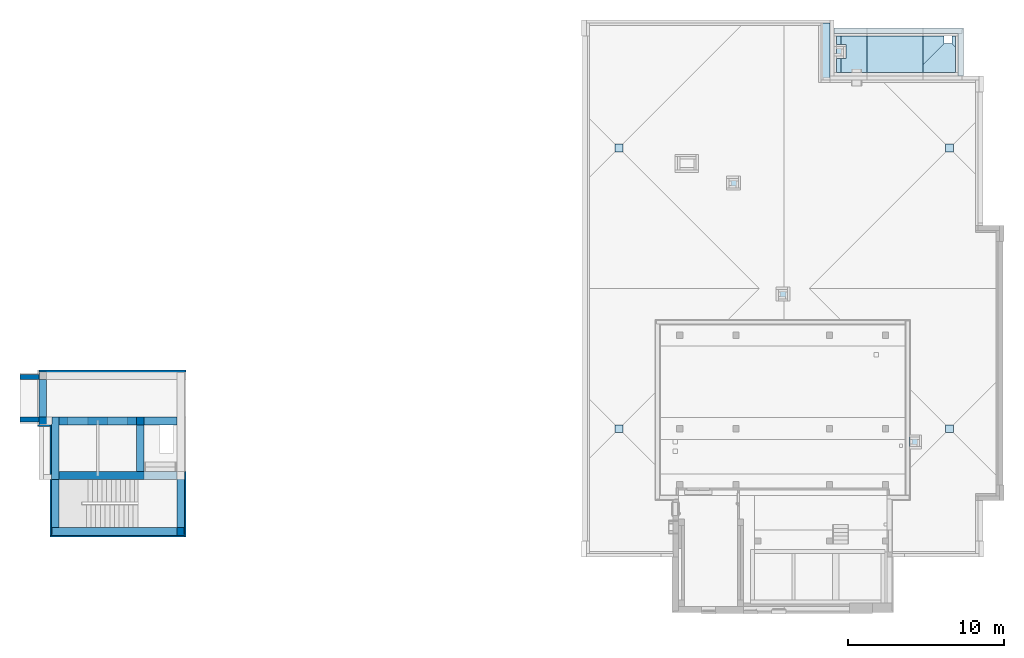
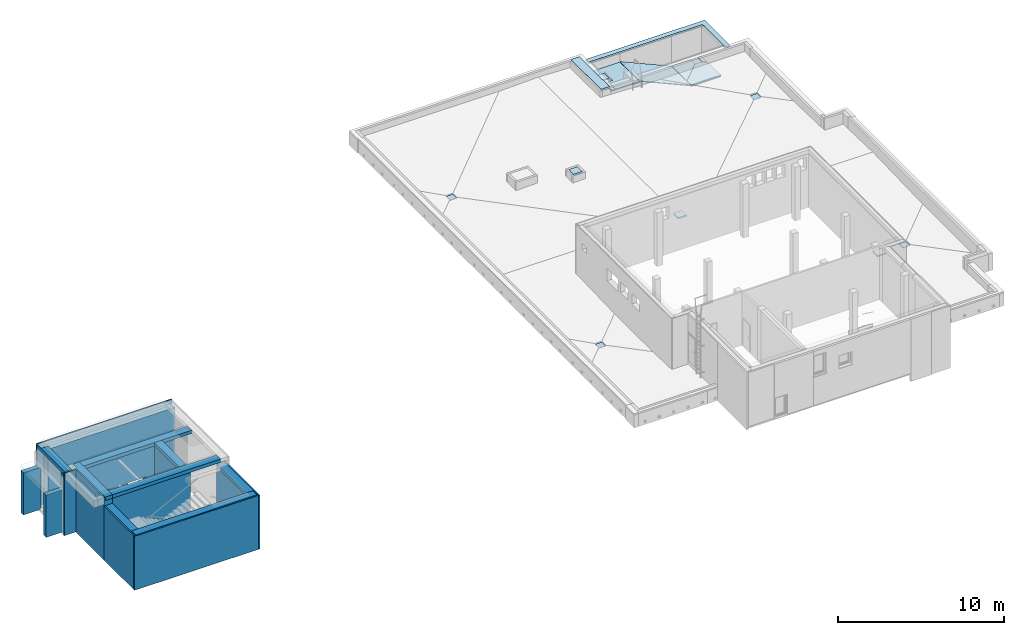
# One storey, part 3 of 17: 19 walls, 17 slabs, 2 openings, 3 elements without a shape of their own.
"""IFC4 building model written with IfcOpenShell, lengths in metres."""

from ifc_helpers import new_model, entity, si_unit, converted_unit, derived_unit, frame, frame_2d, origin, origin_with_axes, place, context, subcontext, project, spatial, polyline, rectangle, outline, extrude, clip, bounded_halfspace, material, layer, layer_set, layer_usage, element, aggregate, save


model = new_model("IFC4")

# Units and contexts
model_context = context("Model", 3, precision=1e-05, world=origin())
body_context = subcontext(model_context, "Body", "Model", "MODEL_VIEW")
ifc_project = project(units=[si_unit("LENGTHUNIT", "METRE"), si_unit("AREAUNIT", "SQUARE_METRE"), si_unit("VOLUMEUNIT", "CUBIC_METRE"), si_unit("MASSUNIT", "GRAM", prefix="KILO"), converted_unit("PLANEANGLEUNIT", "DEGREE", entity("IfcPlaneAngleMeasure", 0.0174532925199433), si_unit("PLANEANGLEUNIT", "RADIAN"), dimensions=[0, 0, 0, 0, 0, 0, 0]), derived_unit("THERMALTRANSMITTANCEUNIT", [(si_unit("POWERUNIT", "WATT"), 1), (si_unit("THERMODYNAMICTEMPERATUREUNIT", "KELVIN"), -1), (si_unit("LENGTHUNIT", "METRE"), -2)]), derived_unit("VOLUMETRICFLOWRATEUNIT", [(si_unit("LENGTHUNIT", "METRE"), 3), (converted_unit("TIMEUNIT", "hour", entity("IfcTimeMeasure", 3600.0), si_unit("TIMEUNIT", "SECOND"), dimensions=[0, 0, 1, 0, 0, 0, 0]), -1), (si_unit("LENGTHUNIT", "METRE"), -1)])], contexts=[model_context])

# Site, building, storey
site_placement = place(None, origin())
site = spatial("IfcSite", under=ifc_project, at=site_placement, Name="3. ASŘ", CompositionType="ELEMENT")
building_placement = place(site_placement, origin())
building = spatial("IfcBuilding", under=site, at=building_placement, Name="Pavilon C", CompositionType="ELEMENT")
storey_placement = place(building_placement, frame((0.0, 0.0, 13.8)))
storey = spatial("IfcBuildingStorey", under=building, at=storey_placement, Name="Půdorys 5.NP", CompositionType="ELEMENT", Elevation=13.8)

# Roof, slabs
roof_1_placement = place(storey_placement, frame((0.0, 0.0, -13.8)))
roof_1 = element("IfcRoof", 1, at=roof_1_placement, inside=storey, PredefinedType="NOTDEFINED")
ifc_material_1 = material(Name="ASFALTOVÁ HYDROIZOLACE")
ifc_layer_1 = layer(ifc_material_1, 0.01)
ifc_material_2 = material(Name="KAČÍREK")
ifc_layer_2 = layer(ifc_material_2, 0.06)
ifc_layer_set_1 = layer_set([ifc_layer_1, ifc_layer_2])
ifc_layer_usage_1 = layer_usage(ifc_layer_set_1, "AXIS3", "POSITIVE", 0.0)
slab_1_placement = place(roof_1_placement, frame((46.35, 30.55, 12.38)))
slab_1 = element("IfcSlab", 2, at=slab_1_placement, material=ifc_layer_usage_1, PredefinedType="ROOF", context=body_context, shape_type="SweptSolid", body=[
    extrude(outline(polyline([(-0.587499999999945, 0.67530368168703), (-0.587500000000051, -0.675303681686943), (1.26249999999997, -0.675303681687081), (-0.0874999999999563, 0.675303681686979), (-0.587499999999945, 0.67530368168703)])), frame((0.674999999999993, 1.26250000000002, 0.0202499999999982), z_axis=(0.0299865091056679, 2.22708088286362e-15, 0.999550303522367), x_axis=(7.42694281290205e-14, -1.0, 0.0)), (0.0, -0.029986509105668, 0.999550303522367), 0.0700314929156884),
])
ifc_material_3 = material(Name="ASFALTOVÁ HYDROIZOLACE")
ifc_layer_3 = layer(ifc_material_3, 0.01)
ifc_material_4 = material(Name="KAČÍREK")
ifc_layer_4 = layer(ifc_material_4, 0.06)
ifc_layer_set_2 = layer_set([ifc_layer_3, ifc_layer_4])
ifc_layer_usage_2 = layer_usage(ifc_layer_set_2, "AXIS3", "POSITIVE", 0.0)
slab_2_placement = place(roof_1_placement, frame((46.35, 30.04, 12.38)))
slab_2 = element("IfcSlab", 3, at=slab_2_placement, material=ifc_layer_usage_2, PredefinedType="ROOF", context=body_context, shape_type="SweptSolid", body=[
    extrude(outline(polyline([(0.116666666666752, 0.887065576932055), (-1.23333333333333, -0.463541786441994), (-1.23333333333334, -0.973771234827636), (0.866666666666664, -0.973771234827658), (0.866666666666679, 0.636953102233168), (0.616666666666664, 0.887065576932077), (0.116666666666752, 0.887065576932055)])), frame((1.23333333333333, 0.973333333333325, 0.0265999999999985), z_axis=(-3.33213833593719e-16, 0.0299865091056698, 0.999550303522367), x_axis=(1.0, 1.11121248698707e-14, 0.0)), (0.0, -0.0299865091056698, 0.999550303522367), 0.0700314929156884),
])
ifc_material_5 = material(Name="ASFALTOVÁ HYDROIZOLACE")
ifc_layer_5 = layer(ifc_material_5, 0.01)
ifc_material_6 = material(Name="KAČÍREK")
ifc_layer_6 = layer(ifc_material_6, 0.06)
ifc_layer_set_3 = layer_set([ifc_layer_5, ifc_layer_6])
ifc_layer_usage_3 = layer_usage(ifc_layer_set_3, "AXIS3", "POSITIVE", 0.0)
slab_3_placement = place(roof_1_placement, frame((48.2, 31.65, 12.38)))
slab_3 = element("IfcSlab", 4, at=slab_3_placement, material=ifc_layer_usage_3, PredefinedType="ROOF", context=body_context, shape_type="SweptSolid", body=[
    extrude(outline(polyline([(-0.187499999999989, 0.125056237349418), (-0.437499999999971, -0.125056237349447), (0.312499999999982, -0.125056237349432), (0.312499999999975, 0.125056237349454), (-0.187499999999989, 0.125056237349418)])), frame((0.125, 0.437499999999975, 0.00375000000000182), z_axis=(-0.0299865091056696, 7.56359306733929e-16, 0.999550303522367), x_axis=(2.52233197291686e-14, 1.0, 0.0)), (0.0, -0.0299865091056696, 0.999550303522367), 0.0700314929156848),
])
aggregate(roof_1, [slab_1, slab_2, slab_3])

# Roof, slab
roof_2_placement = place(storey_placement, frame((0.0, 0.0, -13.8)))
roof_2 = element("IfcRoof", 5, at=roof_2_placement, inside=storey, PredefinedType="NOTDEFINED")
ifc_material_7 = material(Name="ASFALTOVÁ HYDROIZOLACE")
ifc_layer_7 = layer(ifc_material_7, 0.01)
ifc_material_8 = material(Name="KAČÍREK")
ifc_layer_8 = layer(ifc_material_8, 0.06)
ifc_layer_set_4 = layer_set([ifc_layer_7, ifc_layer_8])
ifc_layer_usage_4 = layer_usage(ifc_layer_set_4, "AXIS3", "POSITIVE", 0.0)
slab_4_placement = place(roof_2_placement, frame((40.8, 30.04, 13.959865)))
slab_4 = element("IfcSlab", 6, at=slab_4_placement, material=ifc_layer_usage_4, PredefinedType="ROOF", context=body_context, shape_type="SweptSolid", body=[
    extrude(outline(polyline([(1.31250000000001, 1.08726824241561), (-0.637499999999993, 1.08726824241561), (-0.6375, 0.542731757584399), (-0.0375, 0.542731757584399), (-0.0375, -0.357268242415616), (-0.637499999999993, -0.357268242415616), (-0.637499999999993, -1.27273175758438), (1.31250000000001, -1.27273175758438), (1.31250000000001, 1.08726824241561)])), frame((0.6375, 1.27273175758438, 0.0), z_axis=(0.0, 0.0, 1.0), x_axis=(1.0, 0.0, 0.0)), (0.0, 0.0, 1.0), 0.0700000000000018),
])
aggregate(roof_2, [slab_4])

roof_3_placement = place(storey_placement, frame((0.0, 0.0, -13.8)))
roof_3 = element("IfcRoof", 7, at=roof_3_placement, inside=storey, PredefinedType="NOTDEFINED")
ifc_material_9 = material(Name="ASFALTOVÁ HYDROIZOLACE")
ifc_layer_9 = layer(ifc_material_9, 0.01)
ifc_material_10 = material(Name="KAČÍREK")
ifc_layer_10 = layer(ifc_material_10, 0.04)
ifc_layer_set_5 = layer_set([ifc_layer_9, ifc_layer_10])
ifc_layer_usage_5 = layer_usage(ifc_layer_set_5, "AXIS3", "POSITIVE", 0.0)
slab_5_placement = place(roof_3_placement, frame((42.75, 30.04, 12.4081019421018)))
slab_5 = element("IfcSlab", 8, at=slab_5_placement, material=ifc_layer_usage_5, PredefinedType="ROOF", context=body_context, shape_type="SweptSolid", body=[
    extrude(rectangle(XDim=2.36, YDim=3.93954312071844, at=frame_2d((5.45696821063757e-15, 7.27595761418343e-15), x_axis=(1.0, 6.16606577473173e-15))), frame((1.79999999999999, 1.18, 0.800000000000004), z_axis=(0.406138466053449, -1.7569064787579e-15, 0.913811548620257), x_axis=(-4.32588052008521e-15, -1.0, 0.0)), (0.0, -0.406138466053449, 0.913811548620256), 0.0547158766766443),
])
aggregate(roof_3, [slab_5])

# Slabs
ifc_material_11 = material(Name="SPÁDOVÉ KLÍNY PIR 3%")
slab_6_placement = place(storey_placement, frame((26.59, 24.95, 0.16)))
element("IfcSlab", 9, at=slab_6_placement, inside=storey, material=ifc_material_11, PredefinedType="FLOOR", context=body_context, shape_type="SweptSolid", body=[
    extrude(rectangle(XDim=0.5, YDim=0.499999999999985, at=frame_2d((0.249999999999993, -0.25), x_axis=(0.0, -1.0))), frame((0.0, 0.5, 0.0), z_axis=(0.0, 0.0, 1.0), x_axis=(1.0, 0.0, 0.0)), (0.0, 0.0, 1.0), 0.02),
])
ifc_material_12 = material(Name="SPÁDOVÉ KLÍNY PIR 3%")
slab_7_placement = place(storey_placement, frame((47.81, 24.95, 0.16)))
element("IfcSlab", 10, at=slab_7_placement, inside=storey, material=ifc_material_12, PredefinedType="FLOOR", context=body_context, shape_type="SweptSolid", body=[
    extrude(rectangle(XDim=0.5, YDim=0.499999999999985, at=frame_2d((0.249999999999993, -0.25), x_axis=(0.0, -1.0))), frame((0.0, 0.5, 0.0), z_axis=(0.0, 0.0, 1.0), x_axis=(1.0, 0.0, 0.0)), (0.0, 0.0, 1.0), 0.02),
])
ifc_material_13 = material(Name="SPÁDOVÉ KLÍNY PIR 3%")
slab_8_placement = place(storey_placement, frame((47.81, 6.95000000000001, 0.16)))
element("IfcSlab", 11, at=slab_8_placement, inside=storey, material=ifc_material_13, PredefinedType="FLOOR", context=body_context, shape_type="SweptSolid", body=[
    extrude(rectangle(XDim=0.5, YDim=0.499999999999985, at=frame_2d((0.249999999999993, -0.25), x_axis=(0.0, -1.0))), frame((0.0, 0.5, 0.0), z_axis=(0.0, 0.0, 1.0), x_axis=(1.0, 0.0, 0.0)), (0.0, 0.0, 1.0), 0.02),
])
ifc_material_14 = material(Name="SPÁDOVÉ KLÍNY PIR 3%")
slab_9_placement = place(storey_placement, frame((26.59, 6.95000000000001, 0.16)))
element("IfcSlab", 12, at=slab_9_placement, inside=storey, material=ifc_material_14, PredefinedType="FLOOR", context=body_context, shape_type="SweptSolid", body=[
    extrude(rectangle(XDim=0.5, YDim=0.499999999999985, at=frame_2d((0.249999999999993, -0.25), x_axis=(0.0, -1.0))), frame((0.0, 0.5, 0.0), z_axis=(0.0, 0.0, 1.0), x_axis=(1.0, 0.0, 0.0)), (0.0, 0.0, 1.0), 0.02),
])
ifc_material_15 = material(Name="SPÁDOVÉ KLÍNY PIR 3%")
slab_10_placement = place(storey_placement, frame((40.8, 30.04, 0.160000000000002)))
element("IfcSlab", 13, at=slab_10_placement, inside=storey, material=ifc_material_15, PredefinedType="FLOOR", context=body_context, shape_type="Clipping", body=[
    clip(clip(extrude(outline(polyline([(0.599999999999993, 0.915463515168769), (0.0, 0.915463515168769), (0.0, 0.0), (1.95, 0.0), (1.95, 2.36), (0.0, 2.36), (0.0, 1.81546351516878), (0.599999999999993, 1.81546351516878), (0.599999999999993, 0.915463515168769)])), origin_with_axes(), (0.0, 0.0, 1.0), 0.0784999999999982), bounded_halfspace(frame((0.637499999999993, 1.27273175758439, 0.0), z_axis=(0.0, 0.0, 1.0), x_axis=(1.0, 0.0, 0.0)), True, origin_with_axes(), polyline([(0.599999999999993, 0.915463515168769), (0.0, 0.915463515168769), (0.0, 0.0), (1.95, 0.0), (1.95, 2.36), (0.0, 2.36), (0.0, 1.81546351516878), (0.599999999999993, 1.81546351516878), (0.599999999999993, 0.915463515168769)]))), bounded_halfspace(frame((0.637499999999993, 1.27273175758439, 0.0593749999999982), z_axis=(-0.0299865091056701, -9.87707198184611e-20, -0.999550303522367), x_axis=(-3.29383855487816e-18, 1.0, 0.0)), True, origin_with_axes(), polyline([(0.599999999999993, 0.915463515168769), (0.0, 0.915463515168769), (0.0, 0.0), (1.95, 0.0), (1.95, 2.36), (0.0, 2.36), (0.0, 1.81546351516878), (0.599999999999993, 1.81546351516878), (0.599999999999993, 0.915463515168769)]))),
])
ifc_material_16 = material(Name="SPÁDOVÉ KLÍNY PIR 3%")
slab_11_placement = place(storey_placement, frame((46.35, 30.04, -1.44)))
element("IfcSlab", 14, at=slab_11_placement, inside=storey, material=ifc_material_16, PredefinedType="FLOOR", context=body_context, shape_type="Clipping", body=[
    clip(clip(extrude(outline(polyline([(0.249999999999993, 0.0), (0.249999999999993, 0.749999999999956), (0.0, 0.749999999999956), (0.0, 0.249999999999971), (0.249999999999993, 0.0)])), frame((1.85000000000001, 1.61000000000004, 0.0), z_axis=(0.0, 0.0, 1.0), x_axis=(1.0, 0.0, 0.0)), (0.0, 0.0, 1.0), 0.0757999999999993), bounded_halfspace(frame((1.975, 2.04750000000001, 0.0), z_axis=(0.0, 0.0, 1.0), x_axis=(1.0, 0.0, 0.0)), True, origin_with_axes(), polyline([(2.1, 1.61000000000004), (2.1, 2.36), (1.85000000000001, 2.36), (1.85000000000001, 1.86000000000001), (2.1, 1.61000000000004)]))), bounded_halfspace(frame((1.975, 2.04750000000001, 0.02375), z_axis=(0.0299865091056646, 0.0, -0.999550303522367), x_axis=(0.0, -1.0, 0.0)), True, origin_with_axes(), polyline([(2.1, 1.61000000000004), (2.1, 2.36), (1.85000000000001, 2.36), (1.85000000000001, 1.86000000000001), (2.1, 1.61000000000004)]))),
    clip(clip(extrude(outline(polyline([(0.0, 0.509999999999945), (0.0, 0.0), (2.1, 0.0), (2.1, 1.61000000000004), (1.85000000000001, 1.86000000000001), (1.35, 1.86000000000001), (0.0, 0.509999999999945)])), origin_with_axes(), (0.0, 0.0, 1.0), 0.0757999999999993), bounded_halfspace(frame((1.23333333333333, 0.973333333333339, 0.0), z_axis=(0.0, 0.0, 1.0), x_axis=(1.0, 0.0, 0.0)), True, origin_with_axes(), polyline([(0.0, 0.509999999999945), (0.0, 0.0), (2.1, 0.0), (2.1, 1.61000000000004), (1.85000000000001, 1.86000000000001), (1.35, 1.86000000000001), (0.0, 0.509999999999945)]))), bounded_halfspace(frame((1.23333333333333, 0.973333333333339, 0.0465999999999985), z_axis=(4.33657553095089e-16, -0.0299865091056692, -0.999550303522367), x_axis=(-1.0, -1.44617551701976e-14, 0.0)), True, origin_with_axes(), polyline([(0.0, 0.509999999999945), (0.0, 0.0), (2.1, 0.0), (2.1, 1.61000000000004), (1.85000000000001, 1.86000000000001), (1.35, 1.86000000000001), (0.0, 0.509999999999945)]))),
    clip(clip(extrude(outline(polyline([(1.35, 1.35000000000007), (1.35, 1.85000000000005), (0.0, 1.85000000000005), (0.0, 0.0), (1.35, 1.35000000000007)])), frame((0.0, 0.509999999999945, 0.0), z_axis=(0.0, 0.0, 1.0), x_axis=(1.0, 0.0, 0.0)), (0.0, 0.0, 1.0), 0.0757999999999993), bounded_halfspace(frame((0.674999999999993, 1.77249999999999, 0.0), z_axis=(0.0, 0.0, 1.0), x_axis=(1.0, 0.0, 0.0)), True, origin_with_axes(), polyline([(1.35, 1.86000000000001), (1.35, 2.36), (0.0, 2.36), (0.0, 0.509999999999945), (1.35, 1.86000000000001)]))), bounded_halfspace(frame((0.674999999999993, 1.77249999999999, 0.04025), z_axis=(-0.0299865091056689, -1.54737992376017e-15, -0.999550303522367), x_axis=(-5.16025362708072e-14, 1.0, 0.0)), True, origin_with_axes(), polyline([(1.35, 1.86000000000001), (1.35, 2.36), (0.0, 2.36), (0.0, 0.509999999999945), (1.35, 1.86000000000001)]))),
])
ifc_material_17 = material(Name="MINERÁLNÍ VATA")
slab_12_placement = place(storey_placement, frame((33.9, 22.65, 0.85)))
element("IfcSlab", 15, at=slab_12_placement, inside=storey, material=ifc_material_17, PredefinedType="FLOOR", context=body_context, shape_type="SweptSolid", body=[
    extrude(rectangle(XDim=0.600000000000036, YDim=0.600000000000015, at=frame_2d((0.300000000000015, 0.300000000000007), x_axis=(1.0, 0.0))), origin_with_axes(), (0.0, 0.0, 1.0), 0.1),
])
ifc_material_18 = material(Name="MINERÁLNÍ VATA")
slab_13_placement = place(storey_placement, frame((37.075, 15.525, 0.85)))
element("IfcSlab", 16, at=slab_13_placement, inside=storey, material=ifc_material_18, PredefinedType="FLOOR", context=body_context, shape_type="SweptSolid", body=[
    extrude(rectangle(XDim=0.600000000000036, YDim=0.600000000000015, at=frame_2d((0.300000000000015, 0.300000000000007), x_axis=(1.0, 0.0))), origin_with_axes(), (0.0, 0.0, 1.0), 0.1),
])
ifc_material_19 = material(Name="MINERÁLNÍ VATA")
slab_14_placement = place(storey_placement, frame((45.5, 6.05, 0.85)))
element("IfcSlab", 17, at=slab_14_placement, inside=storey, material=ifc_material_19, PredefinedType="FLOOR", context=body_context, shape_type="SweptSolid", body=[
    extrude(rectangle(XDim=0.620000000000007, YDim=0.600000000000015, at=frame_2d((0.31, 0.300000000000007), x_axis=(1.0, 0.0))), origin_with_axes(), (0.0, 0.0, 1.0), 0.1),
])
ifc_material_20 = material(Name="MINERÁLNÍ VATA")
slab_15_placement = place(storey_placement, frame((40.8, 31.1054635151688, 0.25)))
element("IfcSlab", 18, at=slab_15_placement, inside=storey, material=ifc_material_20, PredefinedType="FLOOR", context=body_context, shape_type="SweptSolid", body=[
    extrude(rectangle(XDim=0.449999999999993, YDim=0.600000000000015, at=frame_2d((0.225, 0.300000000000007), x_axis=(1.0, 0.0))), origin_with_axes(), (0.0, 0.0, 1.0), 0.1),
])
ifc_material_21 = material(Name="MINERÁLNÍ VATA")
slab_16_placement = place(storey_placement, frame((39.8, 29.57, 0.85)))
element("IfcSlab", 19, at=slab_16_placement, inside=storey, material=ifc_material_21, PredefinedType="FLOOR", context=body_context, shape_type="SweptSolid", body=[
    extrude(rectangle(XDim=3.65, YDim=0.6, at=frame_2d((0.300000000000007, -1.825), x_axis=(5.98023913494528e-15, -1.0))), frame((0.0, 3.65, 0.0), z_axis=(0.0, 0.0, 1.0), x_axis=(1.0, 0.0, 0.0)), (0.0, 0.0, 1.0), 0.1),
])
ifc_material_22 = material(Name="MINERÁLNÍ VATA")
slab_17_placement = place(storey_placement, frame((40.65, 29.82, 0.75)))
element("IfcSlab", 20, at=slab_17_placement, inside=storey, material=ifc_material_22, PredefinedType="FLOOR", context=body_context, shape_type="SweptSolid", body=[
    extrude(outline(polyline([(7.95, 0.0), (8.3, 0.0), (8.3, 3.08), (0.0, 3.08), (0.0, 2.73), (7.95, 2.73), (7.95, 0.0)])), origin_with_axes(), (0.0, 0.0, 1.0), 0.1),
])

# Walls
ifc_material_23 = material(Name="ZDIVO Z CDm")
ifc_layer_11 = layer(ifc_material_23, 0.5)
ifc_layer_set_6 = layer_set([ifc_layer_11])
ifc_layer_usage_6 = layer_usage(ifc_layer_set_6, "AXIS2", "POSITIVE", 0.0)
wall_1_placement = place(storey_placement, frame((-9.07499999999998, 3.95, -0.9)))
element("IfcWall", 21, at=wall_1_placement, inside=storey, material=ifc_layer_usage_6, Name="ZDIVO Z CDm", context=body_context, shape_type="SweptSolid", body=[
    extrude(rectangle(XDim=5.45, YDim=0.5, at=frame_2d((2.725, 0.25), x_axis=(1.0, 0.0))), origin_with_axes(), (0.0, 0.0, 1.0), 4.35),
])
ifc_material_24 = material(Name="ZDIVO Z CDm")
ifc_layer_12 = layer(ifc_material_24, 0.5)
ifc_layer_set_7 = layer_set([ifc_layer_12])
ifc_layer_usage_7 = layer_usage(ifc_layer_set_7, "AXIS2", "POSITIVE", 0.0)
wall_2_placement = place(storey_placement, frame((-3.62499999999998, 4.45, -0.9), z_axis=(0.0, 0.0, 1.0), x_axis=(0.0, 1.0, 0.0)))
element("IfcWall", 22, at=wall_2_placement, inside=storey, material=ifc_layer_usage_7, Name="ZDIVO Z CDm", context=body_context, shape_type="SweptSolid", body=[
    extrude(rectangle(XDim=3.5, YDim=0.5, at=frame_2d((1.75, 0.25), x_axis=(1.0, 0.0))), origin_with_axes(), (0.0, 0.0, 1.0), 4.35),
])
ifc_material_25 = material(Name="NEOVĚŘENO")
ifc_layer_13 = layer(ifc_material_25, 0.33)
ifc_layer_set_8 = layer_set([ifc_layer_13])
ifc_layer_usage_8 = layer_usage(ifc_layer_set_8, "AXIS2", "POSITIVE", 0.0)
wall_3_placement = place(storey_placement, frame((-10.375, 10.68, -0.8), z_axis=(0.0, 0.0, 1.0), x_axis=(-1.0, 0.0, 0.0)))
element("IfcWall", 23, at=wall_3_placement, inside=storey, material=ifc_layer_usage_8, Name="YTONG 375", context=body_context, shape_type="SweptSolid", body=[
    extrude(rectangle(XDim=1.21, YDim=0.33, at=frame_2d((0.605, 0.165), x_axis=(1.0, 0.0))), origin_with_axes(), (0.0, 0.0, 1.0), 3.1),
])
ifc_material_26 = material(Name="NEOVĚŘENO")
ifc_layer_14 = layer(ifc_material_26, 0.33)
ifc_layer_set_9 = layer_set([ifc_layer_14])
ifc_layer_usage_9 = layer_usage(ifc_layer_set_9, "AXIS2", "POSITIVE", 0.0)
wall_4_placement = place(storey_placement, frame((-10.375, 7.95, -0.8), z_axis=(0.0, 0.0, 1.0), x_axis=(-1.0, 0.0, 0.0)))
element("IfcWall", 24, at=wall_4_placement, inside=storey, material=ifc_layer_usage_9, Name="YTONG 375", context=body_context, shape_type="SweptSolid", body=[
    extrude(rectangle(XDim=1.21, YDim=0.33, at=frame_2d((0.605, 0.165), x_axis=(1.0, 0.0))), origin_with_axes(), (0.0, 0.0, 1.0), 3.1),
])
ifc_material_27 = material(Name="EPS")
ifc_layer_15 = layer(ifc_material_27, 0.1)
ifc_material_28 = material(Name="ZDIVO Z CDm")
ifc_layer_16 = layer(ifc_material_28, 0.5)
ifc_layer_set_10 = layer_set([ifc_layer_15, ifc_layer_16])
ifc_layer_usage_10 = layer_usage(ifc_layer_set_10, "AXIS2", "POSITIVE", -0.1)
wall_5_placement = place(storey_placement, frame((-0.924999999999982, 10.95, -0.9), z_axis=(0.0, 0.0, 1.0), x_axis=(-1.0, 0.0, 0.0)))
element("IfcWall", 25, at=wall_5_placement, inside=storey, material=ifc_layer_usage_10, Name="ZDIVO Z CDm", context=body_context, shape_type="Clipping", body=[
    clip(extrude(outline(polyline([(-9.44999999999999, -0.6), (0.0, -0.6), (0.0, -0.5), (-0.5, -0.5), (-0.5, 0.0), (-9.34999999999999, 0.0), (-9.34999999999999, -0.5), (-9.44999999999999, -0.5), (-9.44999999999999, -0.6)])), frame((9.44999999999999, 0.6, 0.0), z_axis=(0.0, 0.0, 1.0), x_axis=(1.0, 0.0, 0.0)), (0.0, 0.0, 1.0), 4.6), bounded_halfspace(frame((4.525, 0.35, 4.35), z_axis=(0.0, 0.0, -1.0), x_axis=(1.0, 0.0, 0.0)), True, origin_with_axes(), polyline([(0.1, 0.1), (8.94999999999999, 0.1), (8.94999999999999, 0.6), (0.1, 0.6), (0.1, 0.1)]))),
])
ifc_material_29 = material(Name="EPS")
ifc_layer_17 = layer(ifc_material_29, 0.0999999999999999)
ifc_material_30 = material(Name="ZDIVO Z CDm")
ifc_layer_18 = layer(ifc_material_30, 0.5)
ifc_layer_set_11 = layer_set([ifc_layer_17, ifc_layer_18])
ifc_layer_usage_11 = layer_usage(ifc_layer_set_11, "AXIS2", "POSITIVE", -0.1)
wall_6_placement = place(storey_placement, frame((-0.92499999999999, 0.250000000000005, -0.9), z_axis=(0.0, 0.0, 1.0), x_axis=(2.03012210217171e-15, 1.0, 0.0)))
element("IfcWall", 26, at=wall_6_placement, inside=storey, material=ifc_layer_usage_11, Name="ZDIVO Z CDm", context=body_context, shape_type="Clipping", body=[
    clip(extrude(outline(polyline([(0.0999999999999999, 2.03012210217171e-16), (0.100000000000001, -0.5), (1.01506105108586e-15, -0.5), (1.21807326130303e-15, -0.6), (4.2, -0.6), (4.2, 1.13686837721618e-16), (0.0999999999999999, 2.03012210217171e-16)])), frame((-1.21807326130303e-15, 0.6, 0.0), z_axis=(0.0, 0.0, 1.0), x_axis=(1.0, 0.0, 0.0)), (0.0, 0.0, 1.0), 3.98), bounded_halfspace(frame((2.15, 0.35, 3.73), z_axis=(0.0, 0.0, -1.0), x_axis=(1.0, 3.36703177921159e-17, 0.0)), True, origin_with_axes(), polyline([(0.0999999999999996, 0.0999999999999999), (4.2, 0.1), (4.2, 0.6), (0.0999999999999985, 0.6), (0.0999999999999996, 0.0999999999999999)]))),
])
ifc_material_31 = material(Name="EPS")
ifc_layer_19 = layer(ifc_material_31, 0.0999999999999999)
ifc_material_32 = material(Name="ZDIVO Z CDm")
ifc_layer_20 = layer(ifc_material_32, 0.5)
ifc_layer_set_12 = layer_set([ifc_layer_19, ifc_layer_20])
ifc_layer_usage_12 = layer_usage(ifc_layer_set_12, "AXIS2", "POSITIVE", -0.1)
wall_7_placement = place(storey_placement, frame((-9.67499999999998, 0.250000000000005, -0.9)))
element("IfcWall", 27, at=wall_7_placement, inside=storey, material=ifc_layer_usage_12, Name="ZDIVO Z CDm", context=body_context, shape_type="Clipping", body=[
    clip(extrude(outline(polyline([(0.0, 0.0), (8.64999999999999, 0.0), (8.64999999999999, 0.0999999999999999), (8.14999999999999, 0.0999999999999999), (8.15, 0.6), (0.100000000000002, 0.6), (0.1, 0.0999999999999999), (0.0, 0.0999999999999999), (0.0, 0.0)])), origin_with_axes(), (0.0, 0.0, 1.0), 3.98), bounded_halfspace(frame((4.125, 0.35, 3.73), z_axis=(0.0, 0.0, -1.0), x_axis=(1.0, 0.0, 0.0)), True, origin_with_axes(), polyline([(0.1, 0.1), (8.14999999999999, 0.1), (8.15, 0.6), (0.100000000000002, 0.6), (0.1, 0.1)]))),
])
ifc_material_33 = material(Name="EPS")
ifc_layer_21 = layer(ifc_material_33, 0.1)
ifc_material_34 = material(Name="ZDIVO Z CDm")
ifc_layer_22 = layer(ifc_material_34, 0.5)
ifc_layer_set_13 = layer_set([ifc_layer_21, ifc_layer_22])
ifc_layer_usage_13 = layer_usage(ifc_layer_set_13, "AXIS2", "POSITIVE", -0.1)
wall_8_placement = place(storey_placement, frame((-9.67499999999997, 3.95000000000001, -0.9), z_axis=(0.0, 0.0, 1.0), x_axis=(-2.52637417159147e-15, -1.0, 0.0)))
element("IfcWall", 28, at=wall_8_placement, inside=storey, material=ifc_layer_usage_13, Name="ZDIVO Z CDm", context=body_context, shape_type="Clipping", body=[
    clip(extrude(outline(polyline([(-3.6, -1.61558713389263e-30), (0.0, 0.0), (-2.52637417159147e-16, 0.1), (-0.5, 0.100000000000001), (-0.5, 0.6), (-3.6, 0.6), (-3.6, -1.61558713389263e-30)])), frame((3.6, 1.61558713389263e-30, 0.0), z_axis=(0.0, 0.0, 1.0), x_axis=(1.0, 0.0, 0.0)), (0.0, 0.0, 1.0), 3.98), bounded_halfspace(frame((1.55, 0.35, 3.73), z_axis=(0.0, 0.0, -1.0), x_axis=(1.0, 1.79291070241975e-16, 0.0)), True, origin_with_axes(), polyline([(2.02109933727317e-16, 0.1), (3.1, 0.100000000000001), (3.1, 0.6), (3.03164900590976e-16, 0.6), (2.02109933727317e-16, 0.1)]))),
])
ifc_material_35 = material(Name="EPS")
ifc_layer_23 = layer(ifc_material_35, 0.1)
ifc_material_36 = material(Name="ZDIVO Z CDm")
ifc_layer_24 = layer(ifc_material_36, 0.5)
ifc_layer_set_14 = layer_set([ifc_layer_23, ifc_layer_24])
ifc_layer_usage_14 = layer_usage(ifc_layer_set_14, "AXIS2", "POSITIVE", -0.1)
wall_9_placement = place(storey_placement, frame((-9.67499999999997, 7.45000000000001, -0.9), z_axis=(0.0, 0.0, 1.0), x_axis=(0.0, -1.0, 0.0)))
element("IfcWall", 29, at=wall_9_placement, inside=storey, material=ifc_layer_usage_14, Name="ZDIVO Z CDm", context=body_context, shape_type="Clipping", body=[
    clip(extrude(outline(polyline([(-4.0, 0.6), (-4.0, 0.1), (-3.5, 0.1), (-3.5, 0.0), (0.0, 0.0), (0.0, 0.6), (-4.0, 0.6)])), frame((3.5, 0.0, 0.0), z_axis=(0.0, 0.0, 1.0), x_axis=(1.0, 0.0, 0.0)), (0.0, 0.0, 1.0), 4.6), bounded_halfspace(frame((1.2, 0.3, 4.35), z_axis=(0.0, 0.0, -1.0), x_axis=(1.0, 0.0, 0.0)), True, origin_with_axes(), polyline([(0.0, 0.1), (3.5, 0.1), (3.5, 0.6), (-0.5, 0.6), (-0.5, 0.1), (0.0, 0.1)]))),
])

# Wall, openings
ifc_material_37 = material(Name="ZDIVO Z CDm")
ifc_layer_25 = layer(ifc_material_37, 0.5)
ifc_layer_set_15 = layer_set([ifc_layer_25])
ifc_layer_usage_15 = layer_usage(ifc_layer_set_15, "AXIS2", "POSITIVE", 0.0)
wall_10_placement = place(storey_placement, frame((-4.12499999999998, 7.95, -0.9), z_axis=(0.0, 0.0, 1.0), x_axis=(-1.0, 0.0, 0.0)))
wall_10 = element("IfcWall", 30, at=wall_10_placement, inside=storey, material=ifc_layer_usage_15, Name="ZDIVO Z CDm", context=body_context, shape_type="SweptSolid", body=[
    extrude(rectangle(XDim=4.94999999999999, YDim=0.5, at=frame_2d((2.475, 0.25), x_axis=(1.0, 0.0))), origin_with_axes(), (0.0, 0.0, 1.0), 4.35),
])
opening_1_placement = place(wall_10_placement, frame((0.55, 0.0, 0.2), z_axis=(0.0, 1.0, 0.0), x_axis=(0.0, 0.0, 1.0)))
element("IfcOpeningElement", 31, at=opening_1_placement, cuts=wall_10, Name="Dveřní otvor", ObjectType="Opening", context=body_context, shape_type="SweptSolid", body=[
    extrude(outline(polyline([(0.0, 1.3), (2.07, 1.3), (2.07, 0.0), (0.0, 0.0), (0.0, 1.3)])), origin_with_axes(), (0.0, 0.0, 1.0), 0.5),
])
opening_2_placement = place(wall_10_placement, frame((3.1, 0.0, 0.2), z_axis=(0.0, 1.0, 0.0), x_axis=(0.0, 0.0, 1.0)))
element("IfcOpeningElement", 32, at=opening_2_placement, cuts=wall_10, Name="Dveřní otvor", ObjectType="Opening", context=body_context, shape_type="SweptSolid", body=[
    extrude(outline(polyline([(0.0, 1.3), (2.07, 1.3), (2.07, 0.0), (0.0, 0.0), (0.0, 1.3)])), origin_with_axes(), (0.0, 0.0, 1.0), 0.5),
])

# Walls
ifc_material_38 = material(Name="EPS")
ifc_layer_26 = layer(ifc_material_38, 0.1)
ifc_material_39 = material(Name="ZDIVO Z CDm")
ifc_layer_27 = layer(ifc_material_39, 0.5)
ifc_layer_set_16 = layer_set([ifc_layer_26, ifc_layer_27])
ifc_layer_usage_16 = layer_usage(ifc_layer_set_16, "AXIS2", "POSITIVE", -0.1)
wall_11_placement = place(storey_placement, frame((-10.475, 7.35000000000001, -0.9)))
element("IfcWall", 33, at=wall_11_placement, inside=storey, material=ifc_layer_usage_16, Name="ZDIVO Z CDm", context=body_context, shape_type="Clipping", body=[
    clip(extrude(outline(polyline([(0.0, 0.0), (0.8, 0.0), (0.8, 0.1), (0.9, 0.1), (0.9, 0.6), (0.1, 0.6), (0.1, 0.1), (0.0, 0.1), (0.0, 0.0)])), origin_with_axes(), (0.0, 0.0, 1.0), 4.6), bounded_halfspace(frame((0.56, 0.300000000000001, 4.35), z_axis=(0.0, 0.0, -1.0), x_axis=(1.0, -9.09494701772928e-15, 0.0)), True, origin_with_axes(), polyline([(0.8, 0.100000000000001), (0.9, 0.1), (0.9, 0.6), (0.1, 0.6), (0.1, 0.1), (0.8, 0.100000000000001)]))),
])
ifc_material_40 = material(Name="ZELEZOBETONOVÁ KCE")
ifc_layer_28 = layer(ifc_material_40, 0.5)
ifc_layer_set_17 = layer_set([ifc_layer_28])
ifc_layer_usage_17 = layer_usage(ifc_layer_set_17, "AXIS2", "POSITIVE", 0.0)
wall_12_placement = place(storey_placement, frame((-9.07499999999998, 3.95, 3.45)))
element("IfcWall", 34, at=wall_12_placement, inside=storey, material=ifc_layer_usage_17, context=body_context, shape_type="SweptSolid", body=[
    extrude(rectangle(XDim=7.55, YDim=0.5, at=frame_2d((3.775, 0.25), x_axis=(1.0, 0.0))), origin_with_axes(), (0.0, 0.0, 1.0), 0.25),
])
ifc_material_41 = material(Name="ZELEZOBETONOVÁ KCE")
ifc_layer_29 = layer(ifc_material_41, 0.5)
ifc_layer_set_18 = layer_set([ifc_layer_29])
ifc_layer_usage_18 = layer_usage(ifc_layer_set_18, "AXIS2", "POSITIVE", 0.0)
wall_13_placement = place(storey_placement, frame((-9.07499999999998, 7.45, 3.45)))
element("IfcWall", 35, at=wall_13_placement, inside=storey, material=ifc_layer_usage_18, context=body_context, shape_type="SweptSolid", body=[
    extrude(rectangle(XDim=7.55, YDim=0.5, at=frame_2d((3.775, 0.25), x_axis=(1.0, 0.0))), origin_with_axes(), (0.0, 0.0, 1.0), 0.25),
])
ifc_material_42 = material(Name="ZELEZOBETONOVÁ KCE")
ifc_layer_30 = layer(ifc_material_42, 0.5)
ifc_layer_set_19 = layer_set([ifc_layer_30])
ifc_layer_usage_19 = layer_usage(ifc_layer_set_19, "AXIS2", "POSITIVE", 0.0)
wall_14_placement = place(storey_placement, frame((-4.12499999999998, 7.45, 3.45), z_axis=(0.0, 0.0, 1.0), x_axis=(0.0, -1.0, 0.0)))
element("IfcWall", 36, at=wall_14_placement, inside=storey, material=ifc_layer_usage_19, context=body_context, shape_type="SweptSolid", body=[
    extrude(rectangle(XDim=3.0, YDim=0.5, at=frame_2d((1.5, 0.25), x_axis=(1.0, 0.0))), origin_with_axes(), (0.0, 0.0, 1.0), 0.25),
])
ifc_material_43 = material(Name="ZELEZOBETONOVÁ KCE")
ifc_layer_31 = layer(ifc_material_43, 0.45)
ifc_material_44 = material(Name="LIGNOPOR")
ifc_layer_32 = layer(ifc_material_44, 0.05)
ifc_layer_set_20 = layer_set([ifc_layer_31, ifc_layer_32])
ifc_layer_usage_20 = layer_usage(ifc_layer_set_20, "AXIS2", "POSITIVE", 0.0)
wall_15_placement = place(storey_placement, frame((-9.87499999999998, 7.5, 3.45), z_axis=(0.0, 0.0, 1.0), x_axis=(0.0, 1.0, 0.0)))
element("IfcWall", 37, at=wall_15_placement, inside=storey, material=ifc_layer_usage_20, context=body_context, shape_type="SweptSolid", body=[
    extrude(outline(polyline([(0.05, -0.5), (2.9, -0.5), (2.9, -0.05), (3.35, -0.05), (3.35, 0.0), (0.0, 0.0), (0.0, -0.05), (0.05, -0.05), (0.05, -0.5)])), frame((-0.05, 0.5, 0.0), z_axis=(0.0, 0.0, 1.0), x_axis=(1.0, 0.0, 0.0)), (0.0, 0.0, 1.0), 0.25),
])
ifc_material_45 = material(Name="ZELEZOBETONOVÁ KCE")
ifc_layer_33 = layer(ifc_material_45, 0.45)
ifc_material_46 = material(Name="LIGNOPOR")
ifc_layer_34 = layer(ifc_material_46, 0.05)
ifc_layer_set_21 = layer_set([ifc_layer_33, ifc_layer_34])
ifc_layer_usage_21 = layer_usage(ifc_layer_set_21, "AXIS2", "POSITIVE", 0.0)
wall_16_placement = place(storey_placement, frame((-9.07499999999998, 3.95, 3.45), z_axis=(0.0, 0.0, 1.0), x_axis=(0.0, 1.0, 0.0)))
element("IfcWall", 38, at=wall_16_placement, inside=storey, material=ifc_layer_usage_21, context=body_context, shape_type="SweptSolid", body=[
    extrude(outline(polyline([(0.0, -0.5), (4.0, -0.5), (4.0, -0.05), (3.55, -0.05), (3.55, 0.0), (0.0, 0.0), (0.0, -0.5)])), frame((0.0, 0.5, 0.0), z_axis=(0.0, 0.0, 1.0), x_axis=(1.0, 0.0, 0.0)), (0.0, 0.0, 1.0), 0.25),
])
ifc_material_47 = material(Name="ZELEZOBETONOVÁ KCE")
ifc_layer_35 = layer(ifc_material_47, 0.45)
ifc_material_48 = material(Name="LIGNOPOR")
ifc_layer_36 = layer(ifc_material_48, 0.05)
ifc_layer_set_22 = layer_set([ifc_layer_35, ifc_layer_36])
ifc_layer_usage_22 = layer_usage(ifc_layer_set_22, "AXIS2", "POSITIVE", 0.0)
wall_17_placement = place(storey_placement, frame((-9.07499999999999, 0.850000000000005, 2.83), z_axis=(0.0, 0.0, 1.0), x_axis=(2.34708310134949e-15, 1.0, 0.0)))
element("IfcWall", 39, at=wall_17_placement, inside=storey, material=ifc_layer_usage_22, context=body_context, shape_type="SweptSolid", body=[
    extrude(outline(polyline([(0.0, 0.0), (1.17354155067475e-16, -0.05), (0.45, -0.0500000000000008), (0.450000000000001, -0.499999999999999), (3.55, -0.499999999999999), (3.55, 1.05618739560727e-15), (0.0, 0.0)])), frame((-0.450000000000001, 0.499999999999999, 0.0), z_axis=(0.0, 0.0, 1.0), x_axis=(1.0, 0.0, 0.0)), (0.0, 0.0, 1.0), 0.25),
])
ifc_material_49 = material(Name="ZELEZOBETONOVÁ KCE")
ifc_layer_37 = layer(ifc_material_49, 0.45)
ifc_material_50 = material(Name="LIGNOPOR")
ifc_layer_38 = layer(ifc_material_50, 0.05)
ifc_layer_set_23 = layer_set([ifc_layer_37, ifc_layer_38])
ifc_layer_usage_23 = layer_usage(ifc_layer_set_23, "AXIS2", "POSITIVE", 0.0)
wall_18_placement = place(storey_placement, frame((-1.07499999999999, 0.850000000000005, 2.83), z_axis=(0.0, 0.0, 1.0), x_axis=(-1.0, 0.0, 0.0)))
element("IfcWall", 40, at=wall_18_placement, inside=storey, material=ifc_layer_usage_23, context=body_context, shape_type="SweptSolid", body=[
    extrude(outline(polyline([(-8.5, -0.5), (-0.05, -0.5), (-0.05, -0.05), (0.0, -0.05), (0.0, 0.0), (-8.55, 0.0), (-8.55, -0.05), (-8.5, -0.05), (-8.5, -0.5)])), frame((8.5, 0.5, 0.0), z_axis=(0.0, 0.0, 1.0), x_axis=(1.0, 0.0, 0.0)), (0.0, 0.0, 1.0), 0.25),
])
ifc_material_51 = material(Name="ZELEZOBETONOVÁ KCE")
ifc_layer_39 = layer(ifc_material_51, 0.45)
ifc_material_52 = material(Name="LIGNOPOR")
ifc_layer_40 = layer(ifc_material_52, 0.05)
ifc_layer_set_24 = layer_set([ifc_layer_39, ifc_layer_40])
ifc_layer_usage_24 = layer_usage(ifc_layer_set_24, "AXIS2", "POSITIVE", 0.0)
wall_19_placement = place(storey_placement, frame((-1.52499999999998, 4.45, 2.83), z_axis=(0.0, 0.0, 1.0), x_axis=(-2.02109933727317e-15, -1.0, 0.0)))
element("IfcWall", 41, at=wall_19_placement, inside=storey, material=ifc_layer_usage_24, context=body_context, shape_type="SweptSolid", body=[
    extrude(outline(polyline([(-4.05, -9.09494701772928e-16), (-0.45, -9.09494701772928e-16), (-0.450000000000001, 0.45), (-9.09494701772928e-16, 0.45), (-1.01054966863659e-15, 0.5), (-4.05, 0.499999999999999), (-4.05, -9.09494701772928e-16)])), frame((4.05, 9.09494701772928e-16, 0.0), z_axis=(0.0, 0.0, 1.0), x_axis=(1.0, 0.0, 0.0)), (0.0, 0.0, 1.0), 0.25),
])

save(model, "model.ifc")
